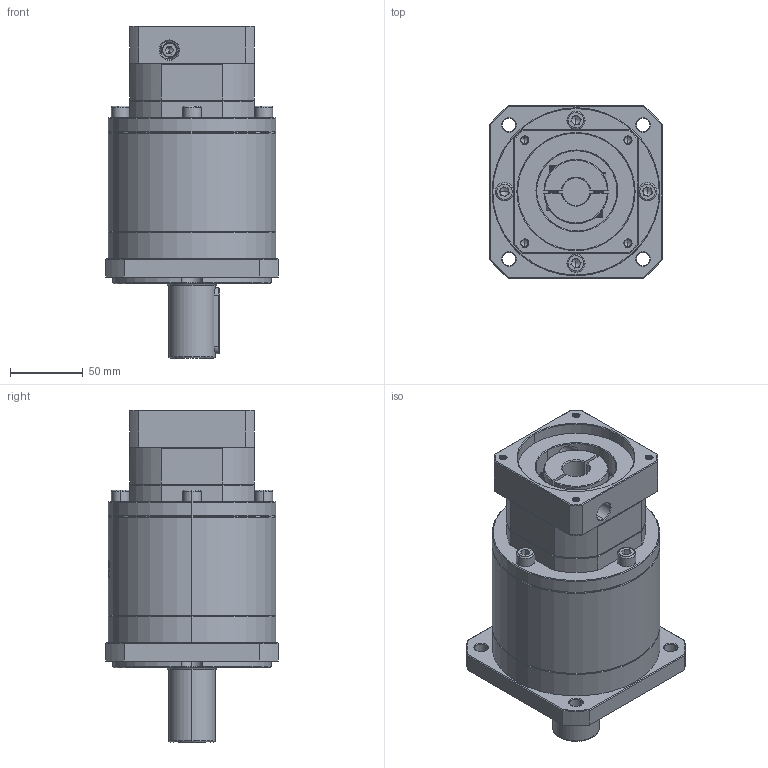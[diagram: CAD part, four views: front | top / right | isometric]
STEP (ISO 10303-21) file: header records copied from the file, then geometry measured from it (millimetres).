
FILE_DESCRIPTION (( 'STEP AP214' ), '1' );
FILE_NAME ('ZF120A-D32-L3-P2-19-80-100-M6.step', '2023-08-27T06:01:07', ( '' ), ( '' ), 'SwSTEP 2.0', 'SolidWorks 2016', '' );
FILE_SCHEMA (( 'AUTOMOTIVE_DESIGN' ));
Length unit declared in the file: millimetre
Products named in the file (1): ZF120A-D32-L3-P2-19-80-100-M6
Bounding box: 118 x 118 x 227.5 mm (x, y, z)
Volume: 1577579.1 mm3; surface area: 139255.9 mm2
Topology: 5 solids, 6 shells, 2212 faces, 5881 edges, 3768 vertices
Faces by surface type: plane 1064, bspline 419, cylinder 402, cone 312, torus 15
Entity records: 121383 total; most frequent: CARTESIAN_POINT 47528, ORIENTED_EDGE 11702, DIRECTION 8432, EDGE_CURVE 5851, VERTEX_POINT 3768, LINE 3098, VECTOR 3098, AXIS2_PLACEMENT_3D 2667
